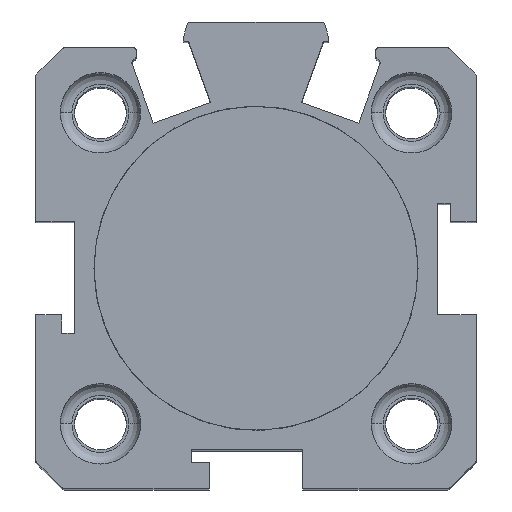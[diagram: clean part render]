
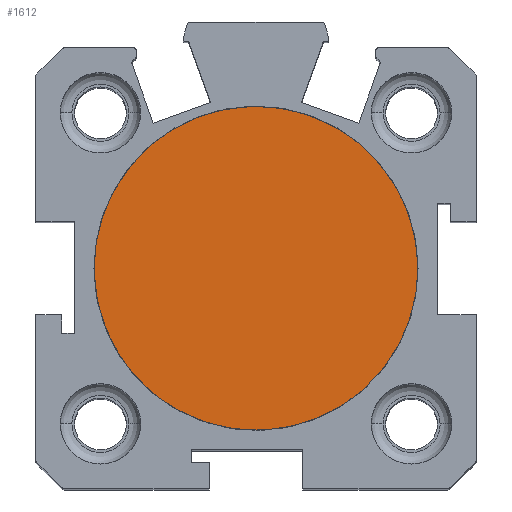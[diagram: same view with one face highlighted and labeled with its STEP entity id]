
A CAD part, top view. The second image highlights one B-rep face of the part: STEP entity #1612.
In plain terms, the highlighted planar face has unit normal (0, 0, 1) as drawn and (-1, 0, 0) by its records, which use the part's own axes.
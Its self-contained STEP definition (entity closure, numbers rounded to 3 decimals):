
#173 = DIRECTION ( 'NONE',  ( 0., -1., 0. ) ) ;
#187 = DIRECTION ( 'NONE',  ( -1., 0., 0. ) ) ;
#194 = CARTESIAN_POINT ( 'NONE',  ( -0.3, 0., 0. ) ) ;
#331 = AXIS2_PLACEMENT_3D ( 'NONE', #194, #187, #173 ) ;
#448 = EDGE_CURVE ( 'NONE', #3628, #7728, #4307, .T. ) ;
#1112 = DIRECTION ( 'NONE',  ( 0., 0., 1. ) ) ;
#1382 = DIRECTION ( 'NONE',  ( -1., 0., 0. ) ) ;
#1591 = FACE_OUTER_BOUND ( 'NONE', #8295, .T. ) ;
#1612 = ADVANCED_FACE ( 'NONE', ( #1591 ), #2674, .T. ) ;
#2507 = CARTESIAN_POINT ( 'NONE',  ( -0.3, -12.5, 0. ) ) ;
#2674 = PLANE ( 'NONE',  #2920 ) ;
#2920 = AXIS2_PLACEMENT_3D ( 'NONE', #2969, #1382, #1112 ) ;
#2969 = CARTESIAN_POINT ( 'NONE',  ( -0.3, -12.65, -12.65 ) ) ;
#3235 = ORIENTED_EDGE ( 'NONE', *, *, #3248, .T. ) ;
#3248 = EDGE_CURVE ( 'NONE', #7728, #3628, #5430, .T. ) ;
#3500 = AXIS2_PLACEMENT_3D ( 'NONE', #4608, #4610, #4615 ) ;
#3628 = VERTEX_POINT ( 'NONE', #4242 ) ;
#4242 = CARTESIAN_POINT ( 'NONE',  ( -0.3, 12.5, 0. ) ) ;
#4307 = CIRCLE ( 'NONE', #331, 12.5 ) ;
#4608 = CARTESIAN_POINT ( 'NONE',  ( -0.3, 0., 0. ) ) ;
#4610 = DIRECTION ( 'NONE',  ( -1., 0., 0. ) ) ;
#4615 = DIRECTION ( 'NONE',  ( 0., -1., 0. ) ) ;
#5430 = CIRCLE ( 'NONE', #3500, 12.5 ) ;
#6173 = ORIENTED_EDGE ( 'NONE', *, *, #448, .T. ) ;
#7728 = VERTEX_POINT ( 'NONE', #2507 ) ;
#8295 = EDGE_LOOP ( 'NONE', ( #3235, #6173 ) ) ;
